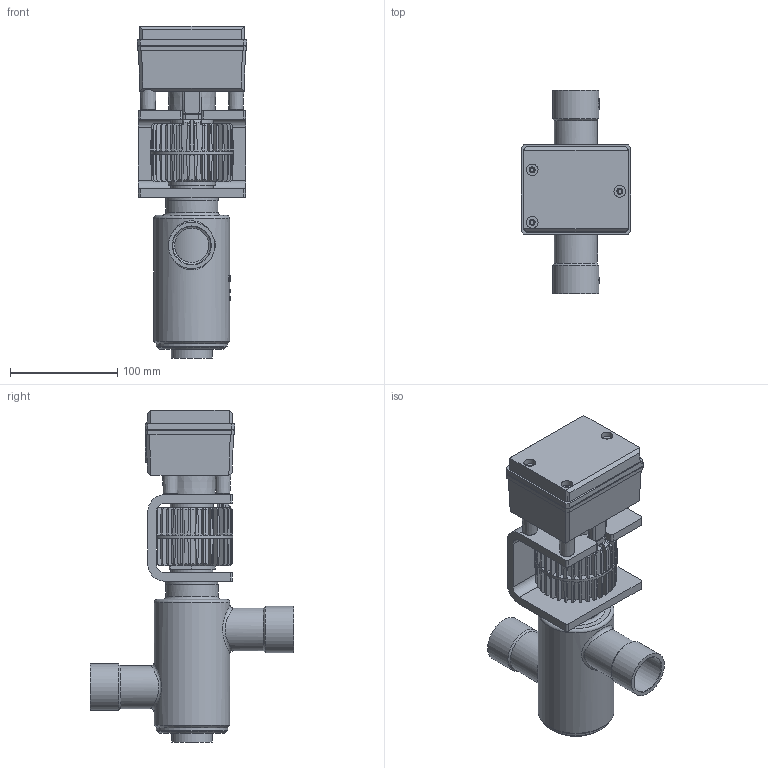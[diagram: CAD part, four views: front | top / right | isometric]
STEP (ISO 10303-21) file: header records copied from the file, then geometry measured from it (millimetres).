
FILE_DESCRIPTION(/* description */ (''),/* implementation_level */ '2;1');
FILE_NAME(/* name */ 'mvs32.stp',/* time_stamp */ '2011-01-11T07:30:50+01:00',/* author */ (''),/* organization */ (''),/* preprocessor_version */ 'ST-DEVELOPER v11',/* originating_system */ 'SIEMENS UGS NX 6.0',/* authorisation */ '');
FILE_SCHEMA (('AUTOMOTIVE_DESIGN { 1 0 10303 214 1 1 1 1 }'));
Length unit declared in the file: millimetre
Products named in the file (1): styg7A75uh8n
Bounding box: 102.2 x 190 x 310.2 mm (x, y, z)
Volume: 1383767.1 mm3; surface area: 223610.9 mm2
Topology: 1 solids, 2 shells, 1130 faces, 3029 edges, 1964 vertices
Faces by surface type: plane 580, cone 290, cylinder 135, extrusion 116, bspline 6, torus 3
Full cylindrical faces by diameter (mm): 1.6 x2, 3 x2, 3.16 x2, 3.432 x3, 3.58 x2, 4.5 x3, 5.7 x3, 11 x3, 17 x3, 32 x2, 33.9 x1, 34.1 x1, 35.4 x2, 37 x1, 38 x2, 39.7 x1, 40 x6, 40.1 x1, 43.4 x2, 49 x2, 64 x1, 66.5 x1, 71 x1
Entity records: 39204 total; most frequent: CARTESIAN_POINT 12046, ORIENTED_EDGE 5818, DIRECTION 5224, EDGE_CURVE 2909, VERTEX_POINT 1933, AXIS2_PLACEMENT_3D 1903, VECTOR 1418, EDGE_LOOP 1320
